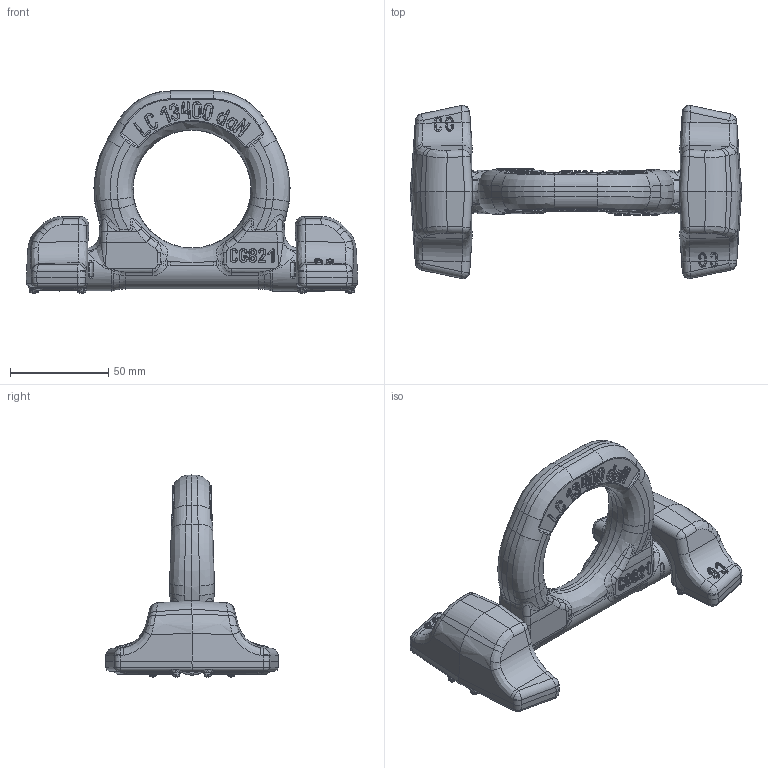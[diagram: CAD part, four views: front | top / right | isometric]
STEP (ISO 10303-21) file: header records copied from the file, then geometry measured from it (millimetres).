
FILE_DESCRIPTION(/* description */ (''),/* implementation_level */ '2;1');
FILE_NAME(/* name */ 'C821X134.stp',/* time_stamp */ '2011-12-02T14:40:07+01:00',/* author */ (''),/* organization */ (''),/* preprocessor_version */ 'ST-DEVELOPER v11',/* originating_system */ 'SIEMENS PLM Software NX 7.5',/* authorisation */ '');
FILE_SCHEMA (('CONFIG_CONTROL_DESIGN'));
Products named in the file (1): ugiiB87Ckfaf
Bounding box: 168.92 x 88.43 x 103 mm (x, y, z)
Volume: 229179.6 mm3; surface area: 44074.7 mm2
Topology: 3 solids, 3 shells, 1979 faces, 4784 edges, 2797 vertices
Faces by surface type: bspline 780, cylinder 652, plane 403, torus 92, sphere 40, cone 8, extrusion 4
Full cylindrical faces by diameter (mm): 22 x2
Entity records: 87315 total; most frequent: CARTESIAN_POINT 47723, ORIENTED_EDGE 9412, DIRECTION 7035, EDGE_CURVE 4706, AXIS2_PLACEMENT_3D 2788, VERTEX_POINT 2784, EDGE_LOOP 2032, ADVANCED_FACE 1979
